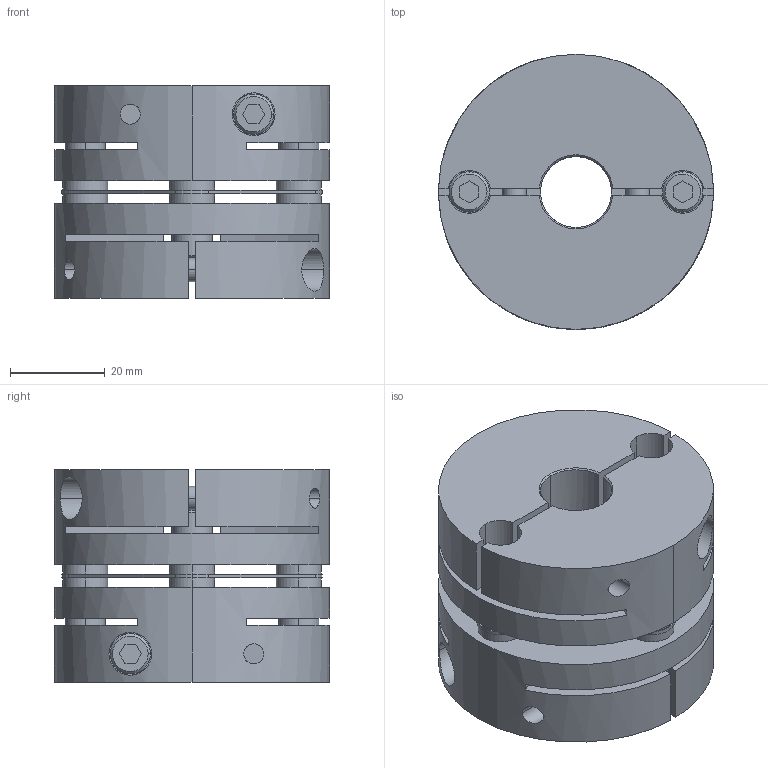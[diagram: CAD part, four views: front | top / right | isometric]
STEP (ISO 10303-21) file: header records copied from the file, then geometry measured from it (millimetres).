
FILE_DESCRIPTION((''),'2;1');
FILE_NAME('LAS-58C-15×15.stp','2011-08-09T15:18:10',(''),(''),'AutoCAD STEP 2000i','AutoCAD 2000i',', , ');
FILE_SCHEMA(('CONFIG_CONTROL_DESIGN'));
Length unit declared in the file: millimetre
Products named in the file (5): LAS-58C-12×12; 忣兜1; LA-5802-D12-1; LA-5802-D12; LAS58-ITA
Assembly tree (4 placements, depth 2):
  LAS-58C-12×12
    忣兜1
    LA-5802-D12-1
    LA-5802-D12
    LAS58-ITA
Bounding box: 58 x 58 x 44.8 mm (x, y, z)
Volume: 88396.8 mm3; surface area: 33834.4 mm2
Topology: 1 solids, 1 shells, 236 faces, 600 edges, 392 vertices
Faces by surface type: plane 112, cylinder 96, cone 28
Entity records: 7859 total; most frequent: CARTESIAN_POINT 1777, DIRECTION 1294, ORIENTED_EDGE 1200, EDGE_CURVE 600, AXIS2_PLACEMENT_3D 477, VERTEX_POINT 392, VECTOR 340, LINE 340
